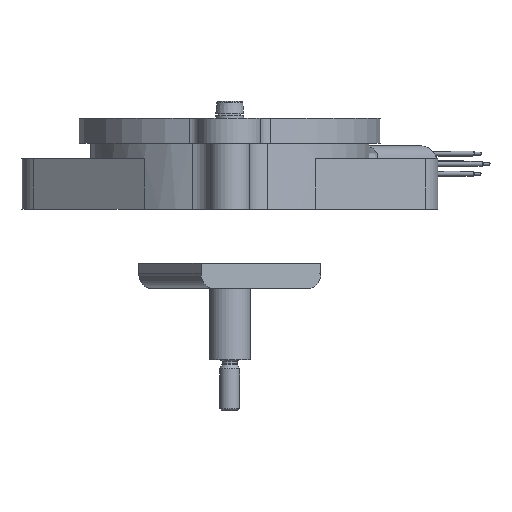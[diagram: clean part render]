
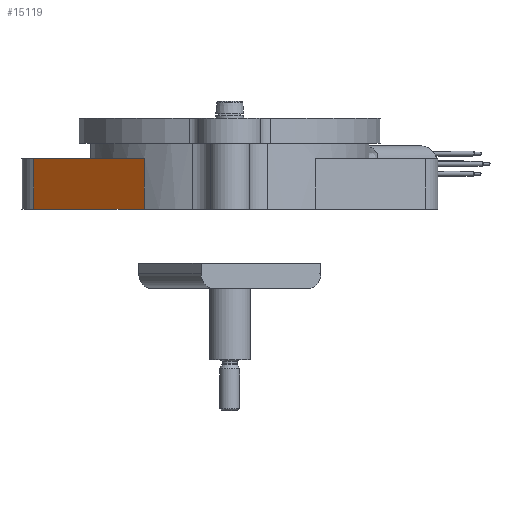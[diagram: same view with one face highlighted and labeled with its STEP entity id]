
A CAD part, left-side view. The second image highlights one B-rep face of the part: STEP entity #15119.
In plain terms, the highlighted planar face has unit normal (-0.789, 0.614, 0).
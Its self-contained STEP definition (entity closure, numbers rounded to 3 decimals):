
#431=LINE('',#22839,#1004);
#439=LINE('',#23094,#1012);
#440=LINE('',#23096,#1013);
#441=LINE('',#23098,#1014);
#1004=VECTOR('',#17357,1000.);
#1012=VECTOR('',#17391,1000.);
#1013=VECTOR('',#17394,1000.);
#1014=VECTOR('',#17395,1000.);
#1367=PLANE('',#15825);
#4658=ORIENTED_EDGE('',*,*,#7024,.T.);
#4659=ORIENTED_EDGE('',*,*,#7025,.F.);
#4660=ORIENTED_EDGE('',*,*,#7004,.F.);
#4661=ORIENTED_EDGE('',*,*,#7023,.T.);
#7004=EDGE_CURVE('',#8347,#8344,#431,.T.);
#7023=EDGE_CURVE('',#8347,#8362,#439,.T.);
#7024=EDGE_CURVE('',#8362,#8363,#440,.T.);
#7025=EDGE_CURVE('',#8344,#8363,#441,.T.);
#8344=VERTEX_POINT('',#22833);
#8347=VERTEX_POINT('',#22838);
#8362=VERTEX_POINT('',#23093);
#8363=VERTEX_POINT('',#23097);
#9317=EDGE_LOOP('',(#4658,#4659,#4660,#4661));
#10078=FACE_BOUND('',#9317,.T.);
#15119=ADVANCED_FACE('',(#10078),#1367,.F.);
#15825=AXIS2_PLACEMENT_3D('',#23095,#17392,#17393);
#17357=DIRECTION('',(-0.614,-0.789,0.));
#17391=DIRECTION('',(0.,0.,-1.));
#17392=DIRECTION('',(0.789,-0.614,0.));
#17393=DIRECTION('',(0.614,0.789,0.));
#17394=DIRECTION('',(-0.614,-0.789,0.));
#17395=DIRECTION('',(0.,0.,-1.));
#22833=CARTESIAN_POINT('',(-21.7,16.893,7.89));
#22838=CARTESIAN_POINT('',(-4.735,38.686,7.89));
#22839=CARTESIAN_POINT('',(-4.735,38.686,7.89));
#23093=CARTESIAN_POINT('',(-4.735,38.686,-2.11));
#23094=CARTESIAN_POINT('',(-4.735,38.686,7.89));
#23095=CARTESIAN_POINT('',(-4.735,38.686,7.89));
#23096=CARTESIAN_POINT('',(-4.735,38.686,-2.11));
#23097=CARTESIAN_POINT('',(-21.7,16.893,-2.11));
#23098=CARTESIAN_POINT('',(-21.7,16.893,7.89));
